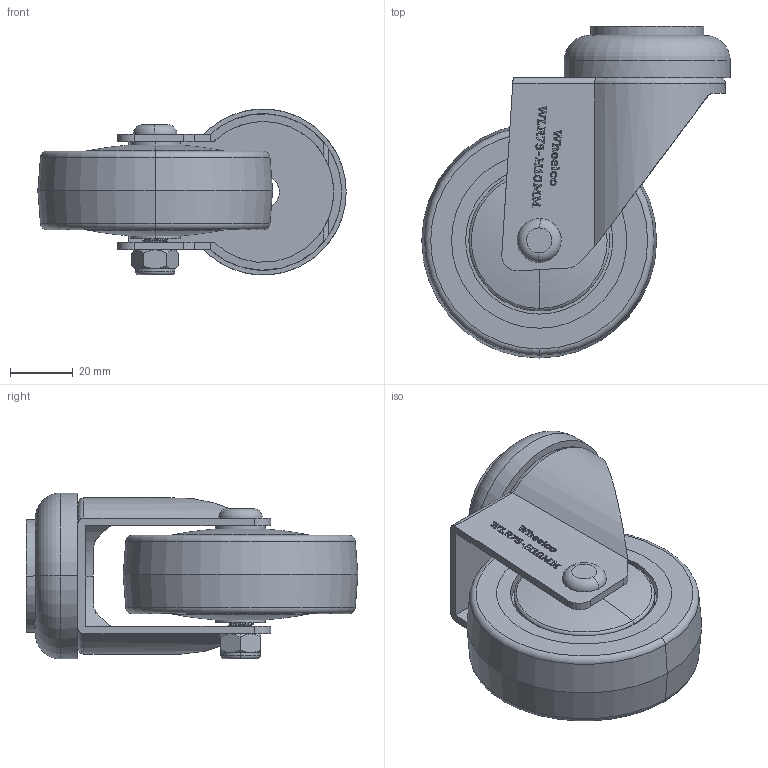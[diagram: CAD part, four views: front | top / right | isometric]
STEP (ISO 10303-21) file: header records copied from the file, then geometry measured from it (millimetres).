
FILE_DESCRIPTION (( 'STEP AP214' ), '1' );
FILE_NAME ('WLR75-H-10MM.step', '2024-01-15T01:49:08', ( '' ), ( '' ), 'SwSTEP 2.0', 'SolidWorks 2022', '' );
FILE_SCHEMA (( 'AUTOMOTIVE_DESIGN' ));
Length unit declared in the file: millimetre
Products named in the file (5): WLR75-H-10MM; WLR75; WL75-H-10MM; M8Nyloc; WL bolt 50mm-8mm dia
Assembly tree (4 placements, depth 2):
  WLR75-H-10MM
    WL bolt 50mm-8mm dia
    M8Nyloc
    WL75-H-10MM
    WLR75
Bounding box: 98.5 x 106 x 53 mm (x, y, z)
Volume: 160822.7 mm3; surface area: 39833.4 mm2
Topology: 4 solids, 4 shells, 553 faces, 1501 edges, 987 vertices
Faces by surface type: plane 317, bspline 105, cylinder 92, torus 19, cone 18, sphere 2
Entity records: 25974 total; most frequent: CARTESIAN_POINT 12396, ORIENTED_EDGE 2998, DIRECTION 2242, EDGE_CURVE 1499, VECTOR 1018, LINE 1018, VERTEX_POINT 987, AXIS2_PLACEMENT_3D 612
